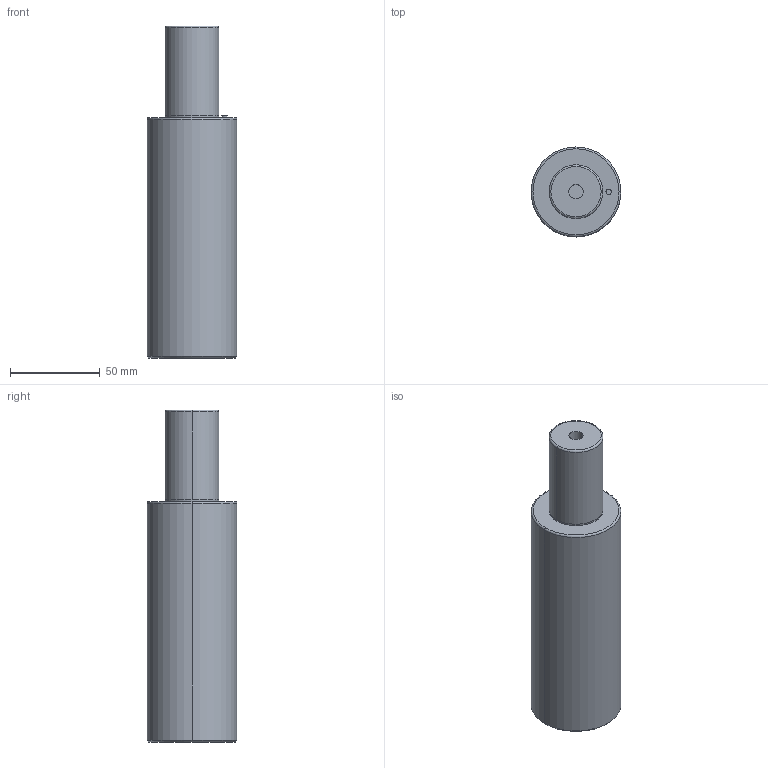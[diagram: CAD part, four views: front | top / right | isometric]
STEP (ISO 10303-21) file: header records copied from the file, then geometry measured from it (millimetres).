
FILE_DESCRIPTION(/* description */ (''),/* implementation_level */ '2;1');
FILE_NAME(/* name */ '3d_gssr50-50_03956_r00.stp',/* time_stamp */ '2011-01-10T14:15:14+09:00',/* author */ ('MISUMI'),/* organization */ (''),/* preprocessor_version */ 'ST-DEVELOPER v11',/* originating_system */ 'UGS - NX 5.0',/* authorisation */ '');
FILE_SCHEMA (('CONFIG_CONTROL_DESIGN'));
Length unit declared in the file: millimetre
Products named in the file (1): 3d_gssr50-50_03956_r00
Bounding box: 50 x 50 x 185 mm (x, y, z)
Volume: 294254.7 mm3; surface area: 31999.1 mm2
Topology: 1 solids, 1 shells, 42 faces, 88 edges, 51 vertices
Faces by surface type: cylinder 22, plane 8, cone 8, torus 4
Entity records: 1176 total; most frequent: DIRECTION 220, CARTESIAN_POINT 176, ORIENTED_EDGE 164, AXIS2_PLACEMENT_3D 95, EDGE_CURVE 82, CIRCLE 52, EDGE_LOOP 51, VERTEX_POINT 51
